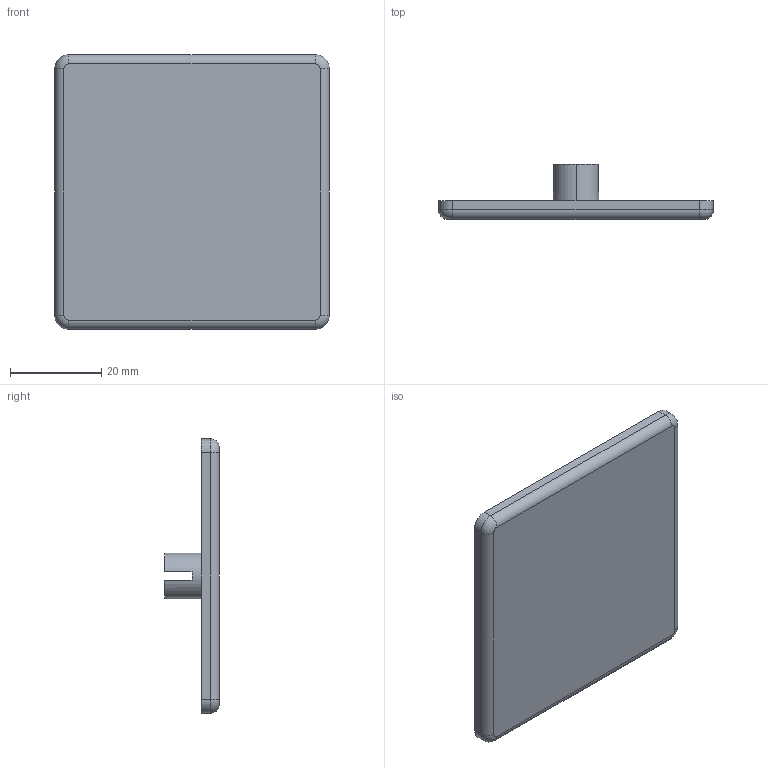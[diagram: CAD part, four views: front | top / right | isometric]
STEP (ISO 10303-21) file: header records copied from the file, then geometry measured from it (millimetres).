
FILE_DESCRIPTION (( 'STEP AP203' ), '1' );
FILE_NAME ('EC60X60.STEP', '2018-03-15T12:40:52', ( '' ), ( '' ), 'SwSTEP 2.0', 'SolidWorks 2013', '' );
FILE_SCHEMA (( 'CONFIG_CONTROL_DESIGN' ));
Length unit declared in the file: millimetre
Products named in the file (1): EC60X60
Bounding box: 60 x 12 x 60 mm (x, y, z)
Volume: 8282.6 mm3; surface area: 8878.8 mm2
Topology: 1 solids, 1 shells, 38 faces, 92 edges, 58 vertices
Faces by surface type: plane 20, cylinder 12, torus 4, cone 2
Entity records: 1191 total; most frequent: DIRECTION 208, CARTESIAN_POINT 189, ORIENTED_EDGE 184, EDGE_CURVE 92, AXIS2_PLACEMENT_3D 77, VERTEX_POINT 58, VECTOR 54, LINE 54
